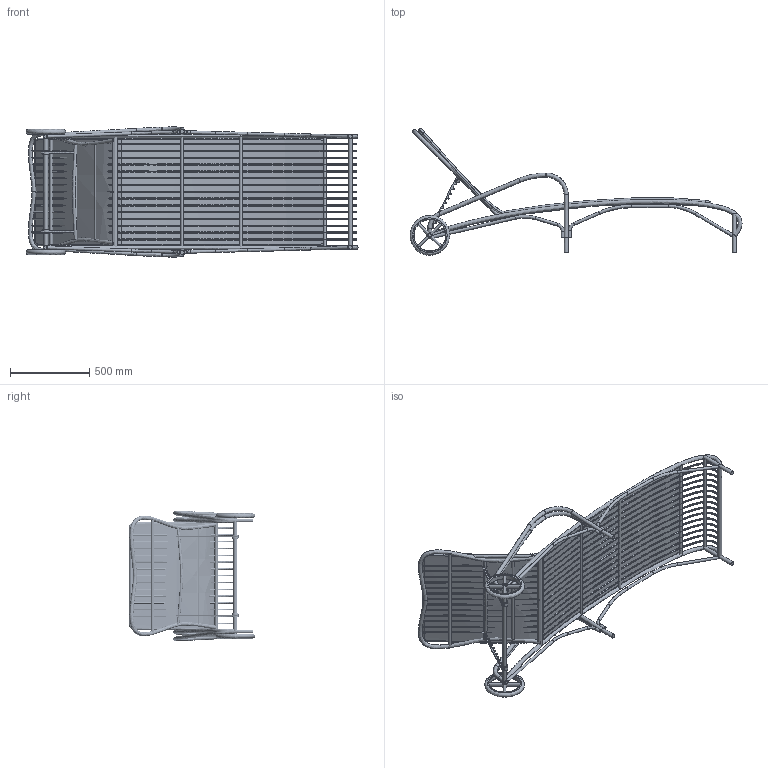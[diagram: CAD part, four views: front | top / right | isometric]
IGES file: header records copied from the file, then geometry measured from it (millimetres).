
Global section: file name: VincentSheppard_LucySunlounger; native system: unknown; preprocessor: unknown; author: ict@vincentsheppard.com; organization: unknown; date: 20180523.172125; units: millimetre
Bounding box: 2093.41 x 796.51 x 820.16 mm (x, y, z)
Volume: 47289100.8 mm3; surface area: 5895871.7 mm2
Topology: 73 solids, 73 shells, 659 faces, 1461 edges, 942 vertices
Faces by surface type: bspline 659
